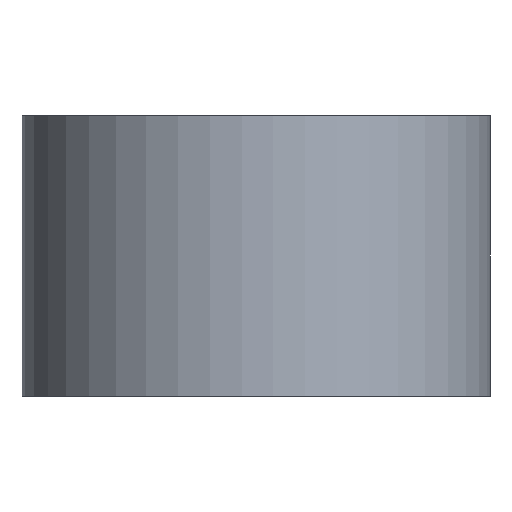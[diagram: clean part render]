
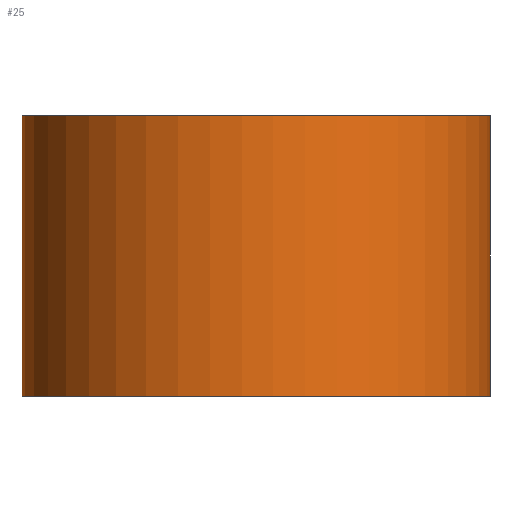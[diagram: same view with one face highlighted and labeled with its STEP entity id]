
A CAD part, front view. The second image highlights one B-rep face of the part: STEP entity #25.
In plain terms, the highlighted free-form (B-spline) face has degree [1, 2] with [2, 5] control points.
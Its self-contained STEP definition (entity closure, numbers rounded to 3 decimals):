
#25=ADVANCED_FACE('',(#33),#102,.T.);
#33=FACE_OUTER_BOUND('',#40,.T.);
#40=EDGE_LOOP('',(#50,#51,#52,#53));
#50=ORIENTED_EDGE('',*,*,#77,.T.);
#51=ORIENTED_EDGE('',*,*,#72,.T.);
#52=ORIENTED_EDGE('',*,*,#78,.F.);
#53=ORIENTED_EDGE('',*,*,#76,.F.);
#72=EDGE_CURVE('',#94,#96,#82,.T.);
#76=EDGE_CURVE('',#98,#99,#84,.T.);
#77=EDGE_CURVE('',#98,#94,#90,.T.);
#78=EDGE_CURVE('',#99,#96,#91,.T.);
#82=B_SPLINE_CURVE_WITH_KNOTS('',1,(#198,#199),.UNSPECIFIED.,.F.,.F.,(2,
2),(0.,120.),.UNSPECIFIED.);
#84=B_SPLINE_CURVE_WITH_KNOTS('',1,(#212,#213),.UNSPECIFIED.,.F.,.F.,(2,
2),(0.,120.),.UNSPECIFIED.);
#90=(
BOUNDED_CURVE()
B_SPLINE_CURVE(2,(#214,#215,#216,#217,#218),.UNSPECIFIED.,.F.,.F.)
B_SPLINE_CURVE_WITH_KNOTS((3,2,3),(314.159,471.239,628.319),
 .UNSPECIFIED.)
CURVE()
GEOMETRIC_REPRESENTATION_ITEM()
RATIONAL_B_SPLINE_CURVE((1.,0.707,1.,0.707,1.))
REPRESENTATION_ITEM('')
);
#91=(
BOUNDED_CURVE()
B_SPLINE_CURVE(2,(#219,#220,#221,#222,#223),.UNSPECIFIED.,.F.,.F.)
B_SPLINE_CURVE_WITH_KNOTS((3,2,3),(314.159,471.239,628.319),
 .UNSPECIFIED.)
CURVE()
GEOMETRIC_REPRESENTATION_ITEM()
RATIONAL_B_SPLINE_CURVE((1.,0.707,1.,0.707,1.))
REPRESENTATION_ITEM('')
);
#94=VERTEX_POINT('',#180);
#96=VERTEX_POINT('',#182);
#98=VERTEX_POINT('',#184);
#99=VERTEX_POINT('',#185);
#102=(
BOUNDED_SURFACE()
B_SPLINE_SURFACE(1,2,((#139,#140,#141,#142,#143),(#144,#145,#146,#147,#148)),
 .UNSPECIFIED.,.F.,.F.,.F.)
B_SPLINE_SURFACE_WITH_KNOTS((2,2),(3,2,3),(0.,120.),(-628.319,
-471.239,-314.159),.UNSPECIFIED.)
GEOMETRIC_REPRESENTATION_ITEM()
RATIONAL_B_SPLINE_SURFACE(((1.,0.707,1.,0.707,1.),
(1.,0.707,1.,0.707,1.)))
REPRESENTATION_ITEM('')
SURFACE()
);
#139=CARTESIAN_POINT('',(100.,0.,50.));
#140=CARTESIAN_POINT('',(100.,-100.,50.));
#141=CARTESIAN_POINT('',(0.,-100.,50.));
#142=CARTESIAN_POINT('',(-100.,-100.,50.));
#143=CARTESIAN_POINT('',(-100.,0.,50.));
#144=CARTESIAN_POINT('',(100.,0.,170.));
#145=CARTESIAN_POINT('',(100.,-100.,170.));
#146=CARTESIAN_POINT('',(0.,-100.,170.));
#147=CARTESIAN_POINT('',(-100.,-100.,170.));
#148=CARTESIAN_POINT('',(-100.,0.,170.));
#180=CARTESIAN_POINT('',(100.,0.,50.));
#182=CARTESIAN_POINT('',(100.,0.,170.));
#184=CARTESIAN_POINT('',(-100.,0.,50.));
#185=CARTESIAN_POINT('',(-100.,0.,170.));
#198=CARTESIAN_POINT('',(100.,0.,50.));
#199=CARTESIAN_POINT('',(100.,0.,170.));
#212=CARTESIAN_POINT('',(-100.,0.,50.));
#213=CARTESIAN_POINT('',(-100.,0.,170.));
#214=CARTESIAN_POINT('',(-100.,0.,50.));
#215=CARTESIAN_POINT('',(-100.,-100.,50.));
#216=CARTESIAN_POINT('',(0.,-100.,50.));
#217=CARTESIAN_POINT('',(100.,-100.,50.));
#218=CARTESIAN_POINT('',(100.,0.,50.));
#219=CARTESIAN_POINT('',(-100.,0.,170.));
#220=CARTESIAN_POINT('',(-100.,-100.,170.));
#221=CARTESIAN_POINT('',(0.,-100.,170.));
#222=CARTESIAN_POINT('',(100.,-100.,170.));
#223=CARTESIAN_POINT('',(100.,0.,170.));
